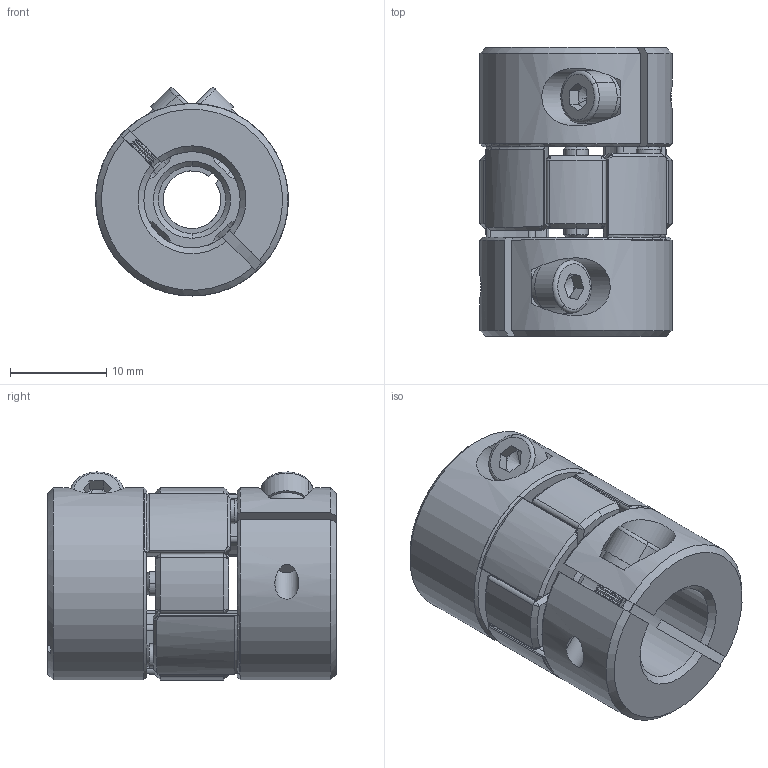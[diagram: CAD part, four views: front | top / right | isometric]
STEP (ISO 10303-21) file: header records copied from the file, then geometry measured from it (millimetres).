
FILE_DESCRIPTION (( 'STEP AP203' ), '1' );
FILE_NAME ('LF-B-D20L30-6-10.STEP', '2021-10-27T02:50:05', ( '' ), ( '' ), 'SwSTEP 2.0', 'SolidWorks 2018', '' );
FILE_SCHEMA (( 'CONFIG_CONTROL_DESIGN' ));
Length unit declared in the file: millimetre
Products named in the file (1): LF-B-D20L30-6-10
Bounding box: 20 x 30 x 21.62 mm (x, y, z)
Volume: 7252.8 mm3; surface area: 4848.5 mm2
Topology: 1 solids, 1 shells, 518 faces, 1253 edges, 691 vertices
Faces by surface type: cone 252, cylinder 192, plane 62, torus 12
Entity records: 15024 total; most frequent: CARTESIAN_POINT 2904, DIRECTION 2742, ORIENTED_EDGE 2426, EDGE_CURVE 1213, AXIS2_PLACEMENT_3D 1107, VERTEX_POINT 691, CIRCLE 588, EDGE_LOOP 546
